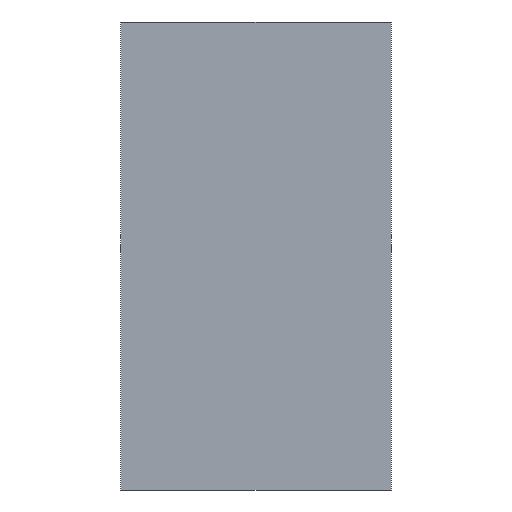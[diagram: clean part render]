
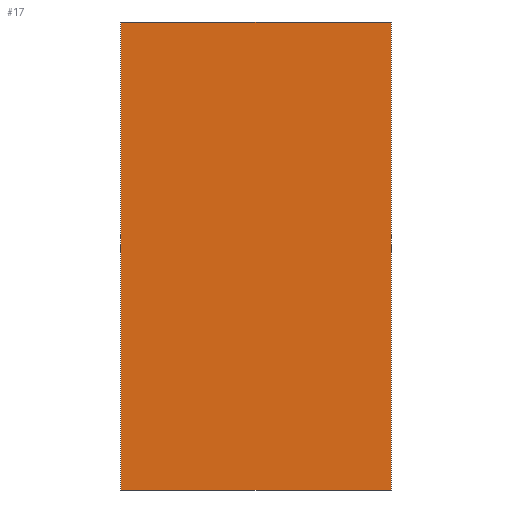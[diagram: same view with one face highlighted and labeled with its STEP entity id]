
A CAD part, left-side view. The second image highlights one B-rep face of the part: STEP entity #17.
In plain terms, the highlighted planar face has unit normal (-1, 0, 0).
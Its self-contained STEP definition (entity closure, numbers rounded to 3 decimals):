
#17 = ADVANCED_FACE('',(#18),#32,.F.);
#18 = FACE_BOUND('',#19,.F.);
#19 = EDGE_LOOP('',(#20,#55,#83,#111));
#20 = ORIENTED_EDGE('',*,*,#21,.F.);
#21 = EDGE_CURVE('',#22,#24,#26,.T.);
#22 = VERTEX_POINT('',#23);
#23 = CARTESIAN_POINT('',(1733.,1721.,2037.));
#24 = VERTEX_POINT('',#25);
#25 = CARTESIAN_POINT('',(1733.,1721.,2400.));
#26 = SURFACE_CURVE('',#27,(#31,#43),.PCURVE_S1.);
#27 = LINE('',#28,#29);
#28 = CARTESIAN_POINT('',(1733.,1721.,2037.));
#29 = VECTOR('',#30,1.);
#30 = DIRECTION('',(0.,0.,1.));
#31 = PCURVE('',#32,#37);
#32 = PLANE('',#33);
#33 = AXIS2_PLACEMENT_3D('',#34,#35,#36);
#34 = CARTESIAN_POINT('',(1733.,1721.,2037.));
#35 = DIRECTION('',(1.,0.,-0.));
#36 = DIRECTION('',(0.,0.,1.));
#37 = DEFINITIONAL_REPRESENTATION('',(#38),#42);
#38 = LINE('',#39,#40);
#39 = CARTESIAN_POINT('',(0.,0.));
#40 = VECTOR('',#41,1.);
#41 = DIRECTION('',(1.,0.));
#42 = ( GEOMETRIC_REPRESENTATION_CONTEXT(2) 
PARAMETRIC_REPRESENTATION_CONTEXT() REPRESENTATION_CONTEXT('2D SPACE',''
  ) );
#43 = PCURVE('',#44,#49);
#44 = PLANE('',#45);
#45 = AXIS2_PLACEMENT_3D('',#46,#47,#48);
#46 = CARTESIAN_POINT('',(1733.,1721.,2037.));
#47 = DIRECTION('',(-0.,1.,0.));
#48 = DIRECTION('',(0.,0.,1.));
#49 = DEFINITIONAL_REPRESENTATION('',(#50),#54);
#50 = LINE('',#51,#52);
#51 = CARTESIAN_POINT('',(0.,0.));
#52 = VECTOR('',#53,1.);
#53 = DIRECTION('',(1.,0.));
#54 = ( GEOMETRIC_REPRESENTATION_CONTEXT(2) 
PARAMETRIC_REPRESENTATION_CONTEXT() REPRESENTATION_CONTEXT('2D SPACE',''
  ) );
#55 = ORIENTED_EDGE('',*,*,#56,.T.);
#56 = EDGE_CURVE('',#22,#57,#59,.T.);
#57 = VERTEX_POINT('',#58);
#58 = CARTESIAN_POINT('',(1733.,1931.,2037.));
#59 = SURFACE_CURVE('',#60,(#64,#71),.PCURVE_S1.);
#60 = LINE('',#61,#62);
#61 = CARTESIAN_POINT('',(1733.,1721.,2037.));
#62 = VECTOR('',#63,1.);
#63 = DIRECTION('',(-0.,1.,0.));
#64 = PCURVE('',#32,#65);
#65 = DEFINITIONAL_REPRESENTATION('',(#66),#70);
#66 = LINE('',#67,#68);
#67 = CARTESIAN_POINT('',(0.,0.));
#68 = VECTOR('',#69,1.);
#69 = DIRECTION('',(0.,-1.));
#70 = ( GEOMETRIC_REPRESENTATION_CONTEXT(2) 
PARAMETRIC_REPRESENTATION_CONTEXT() REPRESENTATION_CONTEXT('2D SPACE',''
  ) );
#71 = PCURVE('',#72,#77);
#72 = PLANE('',#73);
#73 = AXIS2_PLACEMENT_3D('',#74,#75,#76);
#74 = CARTESIAN_POINT('',(1733.,1721.,2037.));
#75 = DIRECTION('',(0.,0.,1.));
#76 = DIRECTION('',(1.,0.,-0.));
#77 = DEFINITIONAL_REPRESENTATION('',(#78),#82);
#78 = LINE('',#79,#80);
#79 = CARTESIAN_POINT('',(0.,0.));
#80 = VECTOR('',#81,1.);
#81 = DIRECTION('',(0.,1.));
#82 = ( GEOMETRIC_REPRESENTATION_CONTEXT(2) 
PARAMETRIC_REPRESENTATION_CONTEXT() REPRESENTATION_CONTEXT('2D SPACE',''
  ) );
#83 = ORIENTED_EDGE('',*,*,#84,.T.);
#84 = EDGE_CURVE('',#57,#85,#87,.T.);
#85 = VERTEX_POINT('',#86);
#86 = CARTESIAN_POINT('',(1733.,1931.,2400.));
#87 = SURFACE_CURVE('',#88,(#92,#99),.PCURVE_S1.);
#88 = LINE('',#89,#90);
#89 = CARTESIAN_POINT('',(1733.,1931.,2037.));
#90 = VECTOR('',#91,1.);
#91 = DIRECTION('',(0.,0.,1.));
#92 = PCURVE('',#32,#93);
#93 = DEFINITIONAL_REPRESENTATION('',(#94),#98);
#94 = LINE('',#95,#96);
#95 = CARTESIAN_POINT('',(0.,-210.));
#96 = VECTOR('',#97,1.);
#97 = DIRECTION('',(1.,0.));
#98 = ( GEOMETRIC_REPRESENTATION_CONTEXT(2) 
PARAMETRIC_REPRESENTATION_CONTEXT() REPRESENTATION_CONTEXT('2D SPACE',''
  ) );
#99 = PCURVE('',#100,#105);
#100 = PLANE('',#101);
#101 = AXIS2_PLACEMENT_3D('',#102,#103,#104);
#102 = CARTESIAN_POINT('',(1733.,1931.,2037.));
#103 = DIRECTION('',(-0.,1.,0.));
#104 = DIRECTION('',(0.,0.,1.));
#105 = DEFINITIONAL_REPRESENTATION('',(#106),#110);
#106 = LINE('',#107,#108);
#107 = CARTESIAN_POINT('',(0.,0.));
#108 = VECTOR('',#109,1.);
#109 = DIRECTION('',(1.,0.));
#110 = ( GEOMETRIC_REPRESENTATION_CONTEXT(2) 
PARAMETRIC_REPRESENTATION_CONTEXT() REPRESENTATION_CONTEXT('2D SPACE',''
  ) );
#111 = ORIENTED_EDGE('',*,*,#112,.F.);
#112 = EDGE_CURVE('',#24,#85,#113,.T.);
#113 = SURFACE_CURVE('',#114,(#118,#125),.PCURVE_S1.);
#114 = LINE('',#115,#116);
#115 = CARTESIAN_POINT('',(1733.,1721.,2400.));
#116 = VECTOR('',#117,1.);
#117 = DIRECTION('',(-0.,1.,0.));
#118 = PCURVE('',#32,#119);
#119 = DEFINITIONAL_REPRESENTATION('',(#120),#124);
#120 = LINE('',#121,#122);
#121 = CARTESIAN_POINT('',(363.,0.));
#122 = VECTOR('',#123,1.);
#123 = DIRECTION('',(0.,-1.));
#124 = ( GEOMETRIC_REPRESENTATION_CONTEXT(2) 
PARAMETRIC_REPRESENTATION_CONTEXT() REPRESENTATION_CONTEXT('2D SPACE',''
  ) );
#125 = PCURVE('',#126,#131);
#126 = PLANE('',#127);
#127 = AXIS2_PLACEMENT_3D('',#128,#129,#130);
#128 = CARTESIAN_POINT('',(1733.,1721.,2400.));
#129 = DIRECTION('',(0.,0.,1.));
#130 = DIRECTION('',(1.,0.,-0.));
#131 = DEFINITIONAL_REPRESENTATION('',(#132),#136);
#132 = LINE('',#133,#134);
#133 = CARTESIAN_POINT('',(0.,0.));
#134 = VECTOR('',#135,1.);
#135 = DIRECTION('',(0.,1.));
#136 = ( GEOMETRIC_REPRESENTATION_CONTEXT(2) 
PARAMETRIC_REPRESENTATION_CONTEXT() REPRESENTATION_CONTEXT('2D SPACE',''
  ) );
